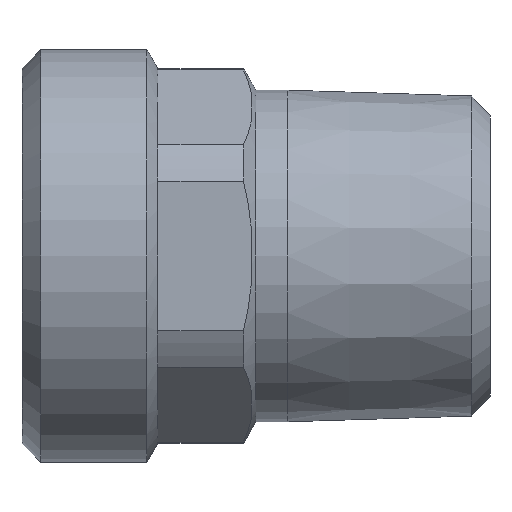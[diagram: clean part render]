
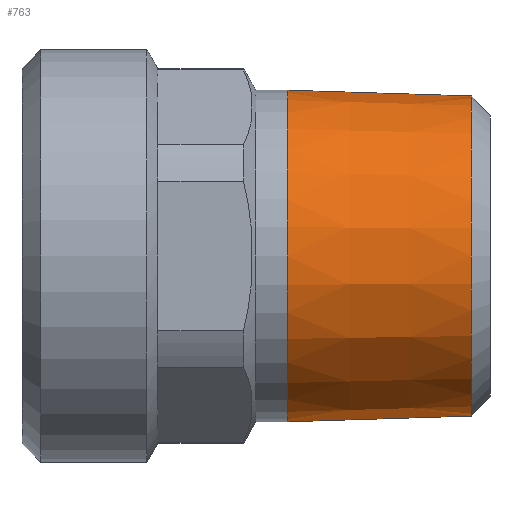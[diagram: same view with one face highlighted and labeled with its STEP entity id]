
A CAD part, front view. The second image highlights one B-rep face of the part: STEP entity #763.
In plain terms, the highlighted conical face has half-angle 1.792 degrees and reference radius 10.424 mm.
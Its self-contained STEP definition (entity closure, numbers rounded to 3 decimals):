
#247=CARTESIAN_POINT('',(2.0,10.628,0.0));
#248=VERTEX_POINT('',#247);
#257=CARTESIAN_POINT('',(2.,-10.628,0.));
#258=VERTEX_POINT('',#257);
#663=CARTESIAN_POINT('',(13.801,10.259,0.));
#664=VERTEX_POINT('',#663);
#665=CARTESIAN_POINT('',(13.801,10.259,0.));
#666=DIRECTION('',(-1.,0.031,0.));
#667=VECTOR('',#666,11.806);
#668=LINE('',#665,#667);
#669=EDGE_CURVE('',#664,#248,#668,.T.);
#671=CARTESIAN_POINT('',(13.801,-10.259,0.));
#672=VERTEX_POINT('',#671);
#680=CARTESIAN_POINT('',(13.801,-10.259,0.));
#681=DIRECTION('',(-1.,-0.031,0.));
#682=VECTOR('',#681,11.806);
#683=LINE('',#680,#682);
#684=EDGE_CURVE('',#672,#258,#683,.T.);
#718=CARTESIAN_POINT('',(13.801,0.0,0.));
#719=DIRECTION('',(1.0,0.0,0.0));
#720=DIRECTION('',(0.0,-1.0,0.0));
#721=AXIS2_PLACEMENT_3D('',#718,#719,#720);
#722=CIRCLE('',#721,10.259);
#723=EDGE_CURVE('',#664,#672,#722,.T.);
#746=CARTESIAN_POINT('',(8.5,0.0,0.0));
#747=DIRECTION('',(-1.0,0.0,0.0));
#748=DIRECTION('',(0.0,1.0,0.0));
#749=AXIS2_PLACEMENT_3D('',#746,#747,#748);
#750=CONICAL_SURFACE('',#749,10.424,1.792);
#751=ORIENTED_EDGE('',*,*,#669,.T.);
#752=CARTESIAN_POINT('',(2.0,0.0,0.0));
#753=DIRECTION('',(1.0,0.0,0.0));
#754=DIRECTION('',(0.0,1.0,0.0));
#755=AXIS2_PLACEMENT_3D('',#752,#753,#754);
#756=CIRCLE('',#755,10.628);
#757=EDGE_CURVE('',#248,#258,#756,.T.);
#758=ORIENTED_EDGE('',*,*,#757,.T.);
#759=ORIENTED_EDGE('',*,*,#684,.F.);
#760=ORIENTED_EDGE('',*,*,#723,.F.);
#761=EDGE_LOOP('',(#751,#758,#759,#760));
#762=FACE_OUTER_BOUND('',#761,.T.);
#763=ADVANCED_FACE('',(#762),#750,.T.);
